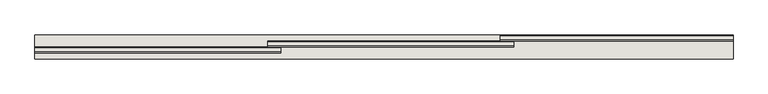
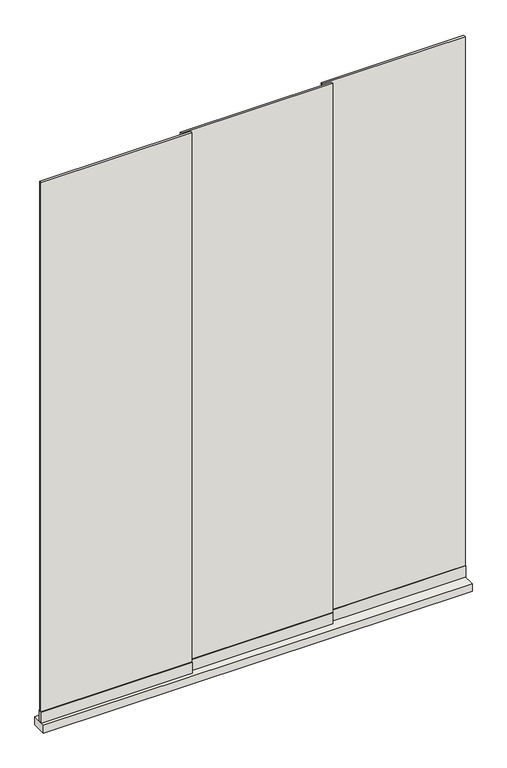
"""IFC4 building model written with IfcOpenShell, lengths in millimetres: wall geometry, Renson_Amani_Glass_Sliding_Panel : Renson_Amani_Glass_Sliding_Panel."""

from ifc_helpers import new_model, si_unit, frame, origin, origin_with_axes, place, context, project, spatial, polyline, outline, extrude, source, transform, mapped, element, save


def wall_4708eb0e(model_context):
    return source(origin(), model_context, "Body", "SweptSolid", [
        extrude(outline(polyline([(750.0, 0.0), (750.0, -64.0), (-1100.0, -64.0), (-1100.0, 0.0), (750.0, 0.0)])), origin_with_axes(), (0.0, 0.0, 1.0), 35.0),
        extrude(outline(polyline([(750.0, -3.0), (750.0, -13.0), (133.3333333, -13.0), (133.3333333, -3.0), (750.0, -3.0)])), frame((0.0, 0.0, 86.0), z_axis=(0.0, 0.0, 1.0), x_axis=(1.0, 0.0, 0.0)), (0.0, 0.0, 1.0), 2414.0),
        extrude(outline(polyline([(168.3333333, -19.0), (168.3333333, -29.0), (-483.3333333, -29.0), (-483.3333333, -19.0), (168.3333333, -19.0)])), frame((0.0, 0.0, 86.0), z_axis=(0.0, 0.0, 1.0), x_axis=(1.0, 0.0, 0.0)), (0.0, 0.0, 1.0), 2414.0),
        extrude(outline(polyline([(-448.3333333, -35.0), (-448.3333333, -45.0), (-1100.0, -45.0), (-1100.0, -35.0), (-448.3333333, -35.0)])), frame((0.0, 0.0, 86.0), z_axis=(0.0, 0.0, 1.0), x_axis=(1.0, 0.0, 0.0)), (0.0, 0.0, 1.0), 2414.0),
        extrude(outline(polyline([(750.0, 0.0), (750.0, -16.0), (133.3333333, -16.0), (133.3333333, 0.0), (750.0, 0.0)])), frame((0.0, 0.0, 35.0), z_axis=(0.0, 0.0, 1.0), x_axis=(1.0, 0.0, 0.0)), (0.0, 0.0, 1.0), 51.0),
        extrude(outline(polyline([(168.3333333, -16.0), (168.3333333, -32.0), (-483.3333333, -32.0), (-483.3333333, -16.0), (168.3333333, -16.0)])), frame((0.0, 0.0, 35.0), z_axis=(0.0, 0.0, 1.0), x_axis=(1.0, 0.0, 0.0)), (0.0, 0.0, 1.0), 51.0),
        extrude(outline(polyline([(-448.3333333, -32.0), (-448.3333333, -48.0), (-1100.0, -48.0), (-1100.0, -32.0), (-448.3333333, -32.0)])), frame((0.0, 0.0, 35.0), z_axis=(0.0, 0.0, 1.0), x_axis=(1.0, 0.0, 0.0)), (0.0, 0.0, 1.0), 51.0),
    ])


if __name__ == "__main__":
    model = new_model("IFC4")
    model_context = context("Model", 3, world=origin())
    ifc_project = project(units=[si_unit("LENGTHUNIT", "METRE", prefix="MILLI")], contexts=[model_context])
    site = spatial("IfcSite", under=ifc_project)
    building = spatial("IfcBuilding", under=site)
    placement = place(None, origin())
    wall_shape = wall_4708eb0e(model_context)
    element("IfcWall", 1, ObjectType="Renson_Amani_Glass_Sliding_Panel : Renson_Amani_Glass_Sliding_Panel", at=placement, inside=building, context=model_context, shape_type="MappedRepresentation", body=[
        mapped(wall_shape, transform((0.0, 0.0, 0.0), x_axis=(1.0, 0.0, 0.0), y_axis=(0.0, 1.0, 0.0), z_axis=(0.0, 0.0, 1.0))),
    ])
    save(model, "model.ifc")
